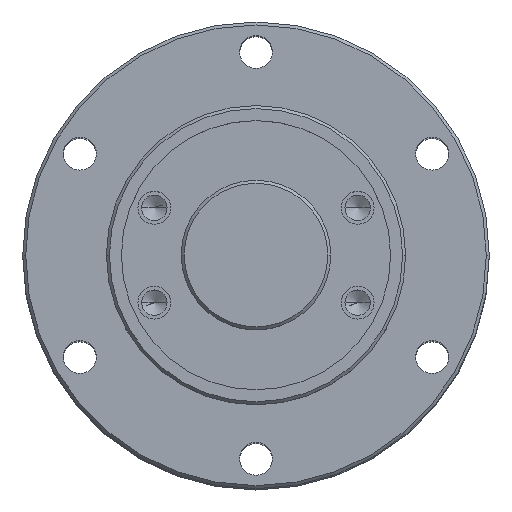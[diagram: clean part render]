
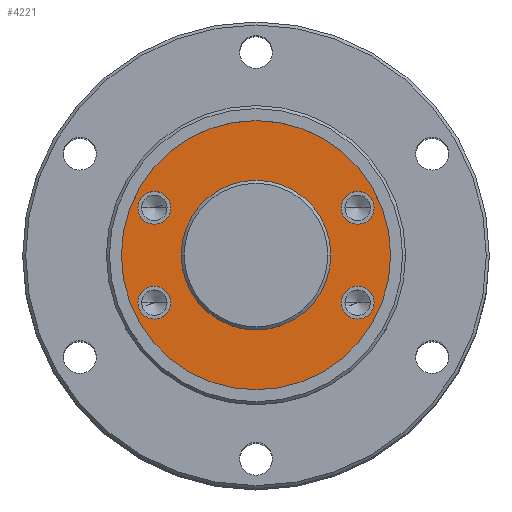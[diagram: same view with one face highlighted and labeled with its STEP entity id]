
A CAD part, top view. The second image highlights one B-rep face of the part: STEP entity #4221.
In plain terms, the highlighted planar face has unit normal (0, 0, 1).
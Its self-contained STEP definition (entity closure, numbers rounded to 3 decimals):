
#151 = CIRCLE ( 'NONE', #5246, 5.5 ) ;
#158 = EDGE_CURVE ( 'NONE', #2612, #4172, #4862, .T. ) ;
#190 = VERTEX_POINT ( 'NONE', #3494 ) ;
#202 = CIRCLE ( 'NONE', #3154, 25. ) ;
#243 = CARTESIAN_POINT ( 'NONE',  ( -25., 0., 0. ) ) ;
#281 = AXIS2_PLACEMENT_3D ( 'NONE', #3051, #476, #3507 ) ;
#298 = CARTESIAN_POINT ( 'NONE',  ( 28.487, -15.848, 0. ) ) ;
#309 = DIRECTION ( 'NONE',  ( 1., 0., 0. ) ) ;
#313 = DIRECTION ( 'NONE',  ( 1., 0., 0. ) ) ;
#351 = CARTESIAN_POINT ( 'NONE',  ( 28.487, 15.848, 0. ) ) ;
#352 = DIRECTION ( 'NONE',  ( 0., 0., 1. ) ) ;
#476 = DIRECTION ( 'NONE',  ( 0., 0., 1. ) ) ;
#514 = CARTESIAN_POINT ( 'NONE',  ( 39.487, 15.848, 0. ) ) ;
#535 = ORIENTED_EDGE ( 'NONE', *, *, #2011, .F. ) ;
#544 = CARTESIAN_POINT ( 'NONE',  ( 39.487, -15.848, 0. ) ) ;
#577 = EDGE_LOOP ( 'NONE', ( #5602, #897 ) ) ;
#617 = EDGE_LOOP ( 'NONE', ( #535, #1320 ) ) ;
#683 = CARTESIAN_POINT ( 'NONE',  ( -33.987, -15.848, 0. ) ) ;
#741 = AXIS2_PLACEMENT_3D ( 'NONE', #765, #3802, #1212 ) ;
#765 = CARTESIAN_POINT ( 'NONE',  ( 33.987, 15.848, 0. ) ) ;
#784 = VERTEX_POINT ( 'NONE', #1864 ) ;
#799 = AXIS2_PLACEMENT_3D ( 'NONE', #4694, #2073, #5131 ) ;
#858 = FACE_BOUND ( 'NONE', #617, .T. ) ;
#897 = ORIENTED_EDGE ( 'NONE', *, *, #2690, .F. ) ;
#992 = CARTESIAN_POINT ( 'NONE',  ( 0., 45., 0. ) ) ;
#1007 = FACE_BOUND ( 'NONE', #4417, .T. ) ;
#1048 = EDGE_CURVE ( 'NONE', #3652, #2757, #2902, .T. ) ;
#1130 = DIRECTION ( 'NONE',  ( 1., 0., 0. ) ) ;
#1212 = DIRECTION ( 'NONE',  ( 1., 0., 0. ) ) ;
#1260 = CARTESIAN_POINT ( 'NONE',  ( -28.487, 15.848, 0. ) ) ;
#1313 = CARTESIAN_POINT ( 'NONE',  ( 0., 0., 0. ) ) ;
#1320 = ORIENTED_EDGE ( 'NONE', *, *, #1048, .F. ) ;
#1331 = CARTESIAN_POINT ( 'NONE',  ( 33.987, -15.848, 0. ) ) ;
#1465 = AXIS2_PLACEMENT_3D ( 'NONE', #1525, #4570, #1939 ) ;
#1525 = CARTESIAN_POINT ( 'NONE',  ( 33.987, -15.848, 0. ) ) ;
#1550 = AXIS2_PLACEMENT_3D ( 'NONE', #5505, #2890, #313 ) ;
#1566 = EDGE_CURVE ( 'NONE', #2819, #190, #4625, .T. ) ;
#1579 = ORIENTED_EDGE ( 'NONE', *, *, #1566, .T. ) ;
#1729 = VERTEX_POINT ( 'NONE', #1260 ) ;
#1737 = DIRECTION ( 'NONE',  ( 1., 0., 0. ) ) ;
#1758 = DIRECTION ( 'NONE',  ( 1., 0., 0. ) ) ;
#1818 = EDGE_CURVE ( 'NONE', #3811, #5183, #4691, .T. ) ;
#1838 = EDGE_LOOP ( 'NONE', ( #1987, #5002 ) ) ;
#1864 = CARTESIAN_POINT ( 'NONE',  ( -39.487, 15.848, 0. ) ) ;
#1939 = DIRECTION ( 'NONE',  ( 1., 0., 0. ) ) ;
#1975 = AXIS2_PLACEMENT_3D ( 'NONE', #1331, #4381, #1758 ) ;
#1987 = ORIENTED_EDGE ( 'NONE', *, *, #3973, .F. ) ;
#1993 = FACE_BOUND ( 'NONE', #577, .T. ) ;
#2011 = EDGE_CURVE ( 'NONE', #2757, #3652, #151, .T. ) ;
#2024 = DIRECTION ( 'NONE',  ( 0., 0., 1. ) ) ;
#2033 = ORIENTED_EDGE ( 'NONE', *, *, #158, .F. ) ;
#2052 = EDGE_CURVE ( 'NONE', #3419, #3630, #2152, .T. ) ;
#2073 = DIRECTION ( 'NONE',  ( 0., 0., 1. ) ) ;
#2131 = CIRCLE ( 'NONE', #799, 5.5 ) ;
#2152 = CIRCLE ( 'NONE', #741, 5.5 ) ;
#2212 = EDGE_CURVE ( 'NONE', #190, #2819, #4963, .T. ) ;
#2251 = ORIENTED_EDGE ( 'NONE', *, *, #3772, .F. ) ;
#2289 = DIRECTION ( 'NONE',  ( 0., 0., -1. ) ) ;
#2329 = DIRECTION ( 'NONE',  ( 0., 0., 1. ) ) ;
#2343 = CIRCLE ( 'NONE', #4468, 5.5 ) ;
#2612 = VERTEX_POINT ( 'NONE', #298 ) ;
#2690 = EDGE_CURVE ( 'NONE', #5183, #3811, #202, .T. ) ;
#2757 = VERTEX_POINT ( 'NONE', #5181 ) ;
#2819 = VERTEX_POINT ( 'NONE', #4376 ) ;
#2876 = ORIENTED_EDGE ( 'NONE', *, *, #4731, .F. ) ;
#2887 = DIRECTION ( 'NONE',  ( 0., 0., 1. ) ) ;
#2890 = DIRECTION ( 'NONE',  ( 0., 0., 1. ) ) ;
#2902 = CIRCLE ( 'NONE', #4904, 5.5 ) ;
#2936 = CARTESIAN_POINT ( 'NONE',  ( 0., 0., 0. ) ) ;
#3051 = CARTESIAN_POINT ( 'NONE',  ( 0., 0., 0. ) ) ;
#3154 = AXIS2_PLACEMENT_3D ( 'NONE', #2936, #352, #3382 ) ;
#3169 = FACE_BOUND ( 'NONE', #1838, .T. ) ;
#3382 = DIRECTION ( 'NONE',  ( 1., 0., 0. ) ) ;
#3419 = VERTEX_POINT ( 'NONE', #351 ) ;
#3483 = ORIENTED_EDGE ( 'NONE', *, *, #3852, .F. ) ;
#3494 = CARTESIAN_POINT ( 'NONE',  ( -45., 0., 0. ) ) ;
#3507 = DIRECTION ( 'NONE',  ( 1., 0., 0. ) ) ;
#3630 = VERTEX_POINT ( 'NONE', #514 ) ;
#3652 = VERTEX_POINT ( 'NONE', #4440 ) ;
#3656 = CARTESIAN_POINT ( 'NONE',  ( 25., 0., 0. ) ) ;
#3729 = DIRECTION ( 'NONE',  ( 0., 0., 1. ) ) ;
#3772 = EDGE_CURVE ( 'NONE', #1729, #784, #4491, .T. ) ;
#3802 = DIRECTION ( 'NONE',  ( 0., 0., 1. ) ) ;
#3811 = VERTEX_POINT ( 'NONE', #3656 ) ;
#3817 = ORIENTED_EDGE ( 'NONE', *, *, #2212, .T. ) ;
#3852 = EDGE_CURVE ( 'NONE', #4172, #2612, #3929, .T. ) ;
#3929 = CIRCLE ( 'NONE', #1465, 5.5 ) ;
#3973 = EDGE_CURVE ( 'NONE', #3630, #3419, #2343, .T. ) ;
#4172 = VERTEX_POINT ( 'NONE', #544 ) ;
#4181 = FACE_OUTER_BOUND ( 'NONE', #5299, .T. ) ;
#4221 = ADVANCED_FACE ( 'NONE', ( #1993, #3169, #1007, #858, #5361, #4181 ), #4465, .F. ) ;
#4365 = DIRECTION ( 'NONE',  ( 0., 0., 1. ) ) ;
#4376 = CARTESIAN_POINT ( 'NONE',  ( 45., 0., 0. ) ) ;
#4381 = DIRECTION ( 'NONE',  ( 0., 0., 1. ) ) ;
#4417 = EDGE_LOOP ( 'NONE', ( #3483, #2033 ) ) ;
#4440 = CARTESIAN_POINT ( 'NONE',  ( -39.487, -15.848, 0. ) ) ;
#4465 = PLANE ( 'NONE',  #5493 ) ;
#4468 = AXIS2_PLACEMENT_3D ( 'NONE', #5502, #2887, #309 ) ;
#4491 = CIRCLE ( 'NONE', #5365, 5.5 ) ;
#4570 = DIRECTION ( 'NONE',  ( 0., 0., 1. ) ) ;
#4586 = EDGE_LOOP ( 'NONE', ( #2251, #2876 ) ) ;
#4625 = CIRCLE ( 'NONE', #1550, 45. ) ;
#4656 = CARTESIAN_POINT ( 'NONE',  ( -33.987, -15.848, 0. ) ) ;
#4691 = CIRCLE ( 'NONE', #281, 25. ) ;
#4694 = CARTESIAN_POINT ( 'NONE',  ( -33.987, 15.848, 0. ) ) ;
#4731 = EDGE_CURVE ( 'NONE', #784, #1729, #2131, .T. ) ;
#4862 = CIRCLE ( 'NONE', #1975, 5.5 ) ;
#4904 = AXIS2_PLACEMENT_3D ( 'NONE', #683, #3729, #1130 ) ;
#4957 = CARTESIAN_POINT ( 'NONE',  ( -33.987, 15.848, 0. ) ) ;
#4963 = CIRCLE ( 'NONE', #5515, 45. ) ;
#5002 = ORIENTED_EDGE ( 'NONE', *, *, #2052, .F. ) ;
#5087 = DIRECTION ( 'NONE',  ( 1., 0., 0. ) ) ;
#5131 = DIRECTION ( 'NONE',  ( 1., 0., 0. ) ) ;
#5181 = CARTESIAN_POINT ( 'NONE',  ( -28.487, -15.848, 0. ) ) ;
#5183 = VERTEX_POINT ( 'NONE', #243 ) ;
#5246 = AXIS2_PLACEMENT_3D ( 'NONE', #4656, #2024, #5087 ) ;
#5299 = EDGE_LOOP ( 'NONE', ( #1579, #3817 ) ) ;
#5347 = DIRECTION ( 'NONE',  ( -1., 0., 0. ) ) ;
#5361 = FACE_BOUND ( 'NONE', #4586, .T. ) ;
#5365 = AXIS2_PLACEMENT_3D ( 'NONE', #4957, #2329, #5390 ) ;
#5390 = DIRECTION ( 'NONE',  ( 1., 0., 0. ) ) ;
#5493 = AXIS2_PLACEMENT_3D ( 'NONE', #992, #2289, #5347 ) ;
#5502 = CARTESIAN_POINT ( 'NONE',  ( 33.987, 15.848, 0. ) ) ;
#5505 = CARTESIAN_POINT ( 'NONE',  ( 0., 0., 0. ) ) ;
#5515 = AXIS2_PLACEMENT_3D ( 'NONE', #1313, #4365, #1737 ) ;
#5602 = ORIENTED_EDGE ( 'NONE', *, *, #1818, .F. ) ;
